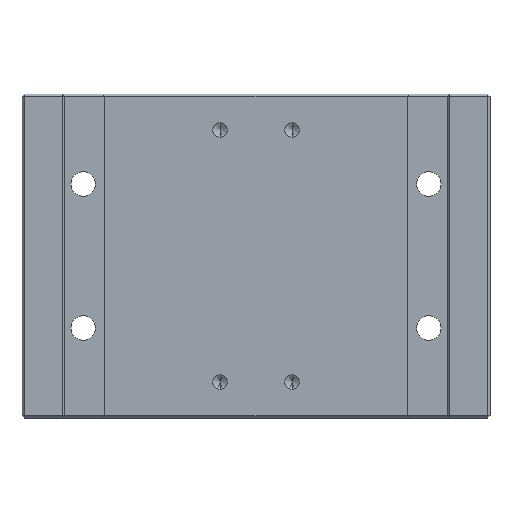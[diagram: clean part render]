
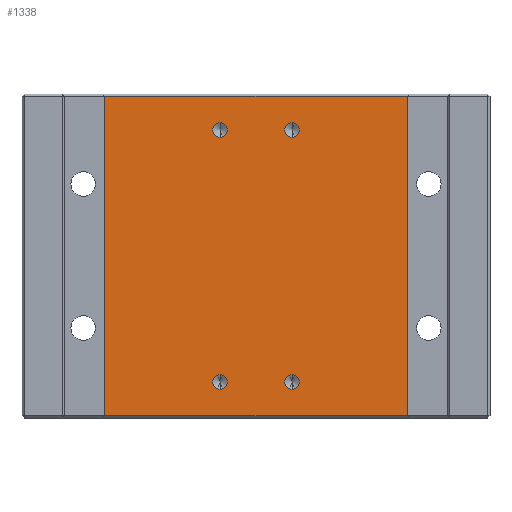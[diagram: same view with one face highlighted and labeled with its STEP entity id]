
A CAD part, left-side view. The second image highlights one B-rep face of the part: STEP entity #1338.
In plain terms, the highlighted planar face has unit normal (-1, 0, 0).
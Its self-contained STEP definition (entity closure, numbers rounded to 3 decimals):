
#5 = CARTESIAN_POINT ( 'NONE',  ( 33., 5., -49. ) ) ;
#33 = AXIS2_PLACEMENT_3D ( 'NONE', #1979, #3162, #1005 ) ;
#69 = EDGE_LOOP ( 'NONE', ( #2523, #294 ) ) ;
#93 = AXIS2_PLACEMENT_3D ( 'NONE', #2308, #3793, #1100 ) ;
#98 = VERTEX_POINT ( 'NONE', #1135 ) ;
#109 = CIRCLE ( 'NONE', #3642, 1.025 ) ;
#110 = VECTOR ( 'NONE', #594, 1000. ) ;
#118 = CARTESIAN_POINT ( 'NONE',  ( 33., 5., -47.975 ) ) ;
#130 = CARTESIAN_POINT ( 'NONE',  ( 33., -5., -14. ) ) ;
#165 = DIRECTION ( 'NONE',  ( -1., 0., 0. ) ) ;
#169 = LINE ( 'NONE', #1376, #3916 ) ;
#173 = EDGE_CURVE ( 'NONE', #2652, #1639, #109, .T. ) ;
#184 = DIRECTION ( 'NONE',  ( 0., 0., 1. ) ) ;
#201 = FACE_OUTER_BOUND ( 'NONE', #2075, .T. ) ;
#223 = DIRECTION ( 'NONE',  ( -1., 0., 0. ) ) ;
#255 = DIRECTION ( 'NONE',  ( 0., 0., 1. ) ) ;
#259 = VERTEX_POINT ( 'NONE', #1551 ) ;
#266 = LINE ( 'NONE', #3308, #110 ) ;
#294 = ORIENTED_EDGE ( 'NONE', *, *, #3056, .F. ) ;
#320 = ORIENTED_EDGE ( 'NONE', *, *, #1805, .T. ) ;
#325 = DIRECTION ( 'NONE',  ( -1., 0., 0. ) ) ;
#497 = VERTEX_POINT ( 'NONE', #2077 ) ;
#543 = PLANE ( 'NONE',  #1901 ) ;
#559 = CARTESIAN_POINT ( 'NONE',  ( 33., -5., -47.975 ) ) ;
#563 = ORIENTED_EDGE ( 'NONE', *, *, #3718, .F. ) ;
#588 = FACE_BOUND ( 'NONE', #1209, .T. ) ;
#594 = DIRECTION ( 'NONE',  ( 0., -1., 0. ) ) ;
#650 = CARTESIAN_POINT ( 'NONE',  ( 33., 21., -9.3 ) ) ;
#655 = DIRECTION ( 'NONE',  ( 0., 0., -1. ) ) ;
#685 = CIRCLE ( 'NONE', #1508, 1.025 ) ;
#766 = ORIENTED_EDGE ( 'NONE', *, *, #3742, .F. ) ;
#803 = FACE_BOUND ( 'NONE', #69, .T. ) ;
#832 = LINE ( 'NONE', #3269, #2049 ) ;
#842 = FACE_BOUND ( 'NONE', #1795, .T. ) ;
#868 = VERTEX_POINT ( 'NONE', #559 ) ;
#895 = DIRECTION ( 'NONE',  ( 0., 0., 1. ) ) ;
#977 = ORIENTED_EDGE ( 'NONE', *, *, #1650, .F. ) ;
#987 = CARTESIAN_POINT ( 'NONE',  ( 33., -5., -49. ) ) ;
#1005 = DIRECTION ( 'NONE',  ( 0., 0., 1. ) ) ;
#1050 = CIRCLE ( 'NONE', #2578, 1.025 ) ;
#1075 = ORIENTED_EDGE ( 'NONE', *, *, #173, .F. ) ;
#1080 = AXIS2_PLACEMENT_3D ( 'NONE', #1176, #2400, #2712 ) ;
#1100 = DIRECTION ( 'NONE',  ( 0., 0., 1. ) ) ;
#1115 = CIRCLE ( 'NONE', #33, 1.025 ) ;
#1122 = DIRECTION ( 'NONE',  ( -1., 0., 0. ) ) ;
#1125 = VERTEX_POINT ( 'NONE', #3416 ) ;
#1135 = CARTESIAN_POINT ( 'NONE',  ( 33., 21., -53.7 ) ) ;
#1154 = CARTESIAN_POINT ( 'NONE',  ( 33., 5., -50.025 ) ) ;
#1155 = ORIENTED_EDGE ( 'NONE', *, *, #3442, .T. ) ;
#1168 = CARTESIAN_POINT ( 'NONE',  ( 33., 0., 0. ) ) ;
#1176 = CARTESIAN_POINT ( 'NONE',  ( 33., -5., -14. ) ) ;
#1209 = EDGE_LOOP ( 'NONE', ( #1075, #1722 ) ) ;
#1338 = ADVANCED_FACE ( 'NONE', ( #588, #842, #2685, #803, #201 ), #543, .T. ) ;
#1376 = CARTESIAN_POINT ( 'NONE',  ( 33., 21., -9.3 ) ) ;
#1396 = EDGE_CURVE ( 'NONE', #3683, #868, #685, .T. ) ;
#1460 = CIRCLE ( 'NONE', #1080, 1.025 ) ;
#1487 = DIRECTION ( 'NONE',  ( 0., -1., 0. ) ) ;
#1508 = AXIS2_PLACEMENT_3D ( 'NONE', #987, #325, #2145 ) ;
#1551 = CARTESIAN_POINT ( 'NONE',  ( 33., -5., -12.975 ) ) ;
#1639 = VERTEX_POINT ( 'NONE', #1154 ) ;
#1650 = EDGE_CURVE ( 'NONE', #868, #3683, #3780, .T. ) ;
#1720 = CARTESIAN_POINT ( 'NONE',  ( 33., -5., -49. ) ) ;
#1722 = ORIENTED_EDGE ( 'NONE', *, *, #3884, .F. ) ;
#1795 = EDGE_LOOP ( 'NONE', ( #977, #3865 ) ) ;
#1805 = EDGE_CURVE ( 'NONE', #2165, #98, #2186, .T. ) ;
#1813 = VERTEX_POINT ( 'NONE', #1884 ) ;
#1827 = CIRCLE ( 'NONE', #93, 1.025 ) ;
#1884 = CARTESIAN_POINT ( 'NONE',  ( 33., 5., -12.975 ) ) ;
#1901 = AXIS2_PLACEMENT_3D ( 'NONE', #1168, #223, #1487 ) ;
#1905 = AXIS2_PLACEMENT_3D ( 'NONE', #130, #1122, #255 ) ;
#1979 = CARTESIAN_POINT ( 'NONE',  ( 33., 5., -14. ) ) ;
#2049 = VECTOR ( 'NONE', #2923, 1000. ) ;
#2075 = EDGE_LOOP ( 'NONE', ( #1155, #2706, #320, #2637 ) ) ;
#2077 = CARTESIAN_POINT ( 'NONE',  ( 33., -21., -53.7 ) ) ;
#2145 = DIRECTION ( 'NONE',  ( 0., 0., 1. ) ) ;
#2165 = VERTEX_POINT ( 'NONE', #650 ) ;
#2186 = LINE ( 'NONE', #3366, #2229 ) ;
#2229 = VECTOR ( 'NONE', #655, 1000. ) ;
#2308 = CARTESIAN_POINT ( 'NONE',  ( 33., 5., -14. ) ) ;
#2400 = DIRECTION ( 'NONE',  ( -1., 0., 0. ) ) ;
#2414 = AXIS2_PLACEMENT_3D ( 'NONE', #1720, #2644, #895 ) ;
#2523 = ORIENTED_EDGE ( 'NONE', *, *, #3591, .F. ) ;
#2578 = AXIS2_PLACEMENT_3D ( 'NONE', #5, #3653, #3907 ) ;
#2637 = ORIENTED_EDGE ( 'NONE', *, *, #2835, .T. ) ;
#2644 = DIRECTION ( 'NONE',  ( -1., 0., 0. ) ) ;
#2646 = CARTESIAN_POINT ( 'NONE',  ( 33., 5., -15.025 ) ) ;
#2652 = VERTEX_POINT ( 'NONE', #118 ) ;
#2673 = EDGE_CURVE ( 'NONE', #3879, #2165, #169, .T. ) ;
#2685 = FACE_BOUND ( 'NONE', #2964, .T. ) ;
#2706 = ORIENTED_EDGE ( 'NONE', *, *, #2673, .T. ) ;
#2712 = DIRECTION ( 'NONE',  ( 0., 0., 1. ) ) ;
#2784 = VERTEX_POINT ( 'NONE', #2646 ) ;
#2835 = EDGE_CURVE ( 'NONE', #98, #497, #266, .T. ) ;
#2896 = CARTESIAN_POINT ( 'NONE',  ( 33., 5., -49. ) ) ;
#2900 = DIRECTION ( 'NONE',  ( 0., 1., 0. ) ) ;
#2923 = DIRECTION ( 'NONE',  ( 0., 0., 1. ) ) ;
#2964 = EDGE_LOOP ( 'NONE', ( #766, #563 ) ) ;
#3056 = EDGE_CURVE ( 'NONE', #1125, #259, #3267, .T. ) ;
#3162 = DIRECTION ( 'NONE',  ( -1., 0., 0. ) ) ;
#3267 = CIRCLE ( 'NONE', #1905, 1.025 ) ;
#3269 = CARTESIAN_POINT ( 'NONE',  ( 33., -21., -4. ) ) ;
#3308 = CARTESIAN_POINT ( 'NONE',  ( 33., 0., -53.7 ) ) ;
#3312 = CARTESIAN_POINT ( 'NONE',  ( 33., -21., -9.3 ) ) ;
#3366 = CARTESIAN_POINT ( 'NONE',  ( 33., 21., -4. ) ) ;
#3416 = CARTESIAN_POINT ( 'NONE',  ( 33., -5., -15.025 ) ) ;
#3442 = EDGE_CURVE ( 'NONE', #497, #3879, #832, .T. ) ;
#3472 = CARTESIAN_POINT ( 'NONE',  ( 33., -5., -50.025 ) ) ;
#3591 = EDGE_CURVE ( 'NONE', #259, #1125, #1460, .T. ) ;
#3642 = AXIS2_PLACEMENT_3D ( 'NONE', #2896, #165, #184 ) ;
#3653 = DIRECTION ( 'NONE',  ( -1., 0., 0. ) ) ;
#3683 = VERTEX_POINT ( 'NONE', #3472 ) ;
#3718 = EDGE_CURVE ( 'NONE', #2784, #1813, #1115, .T. ) ;
#3742 = EDGE_CURVE ( 'NONE', #1813, #2784, #1827, .T. ) ;
#3780 = CIRCLE ( 'NONE', #2414, 1.025 ) ;
#3793 = DIRECTION ( 'NONE',  ( -1., 0., 0. ) ) ;
#3865 = ORIENTED_EDGE ( 'NONE', *, *, #1396, .F. ) ;
#3879 = VERTEX_POINT ( 'NONE', #3312 ) ;
#3884 = EDGE_CURVE ( 'NONE', #1639, #2652, #1050, .T. ) ;
#3907 = DIRECTION ( 'NONE',  ( 0., 0., 1. ) ) ;
#3916 = VECTOR ( 'NONE', #2900, 1000. ) ;
